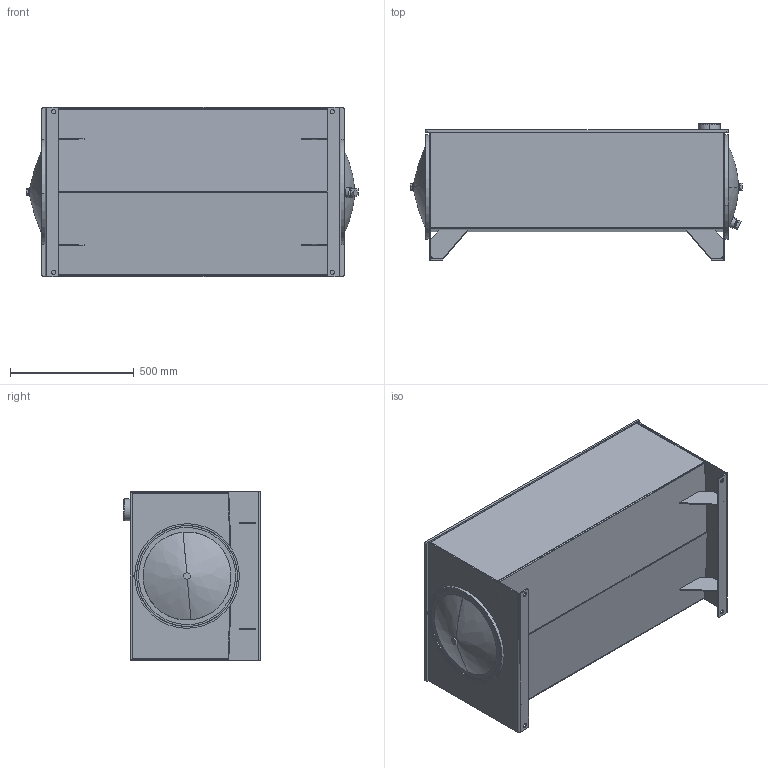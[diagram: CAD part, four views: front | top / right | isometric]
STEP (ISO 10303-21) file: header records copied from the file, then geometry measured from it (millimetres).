
FILE_DESCRIPTION (( 'STEP AP214' ), '1' );
FILE_NAME ('T1-60.STEP', '2026-04-16T10:53:50', ( '' ), ( '' ), 'SwSTEP 2.0', 'SolidWorks 2026', '' );
FILE_SCHEMA (( 'AUTOMOTIVE_DESIGN' ));
Length unit declared in the file: inch
Products named in the file (17): T1-60-GST; T1-60-BDY; 16in END COVER-ASM_CARBON STEEL 16in END COVER ASM; 0.625 - 11 BAFFLE NUT_Carbon Steel Baffle Nut; DRAIN; 16.00 END COVER; CRUSH WASHER; 16in END COVER WITH DRAIN; T1-60; 16.00 GASKET; FILLER RISER; 16in END COVER-ASM WITH DRAIN_CARBON STEEL 16in END COVER-ASM WITH DRAIN; T1-60-EB; T1-60-EA; T1-60-BFL; T1-60-LD; 0.625 - 11 HEX BOLT
Assembly tree (23 placements, depth 3):
  T1-60
    T1-60-LD
    T1-60-EA
    T1-60-EB
    T1-60-BDY
    T1-60-BFL
    T1-60-GST  x4
    FILLER RISER
    16in END COVER-ASM WITH DRAIN_CARBON STEEL 16in END COVER-ASM WITH DRAIN
      CRUSH WASHER
      0.625 - 11 HEX BOLT
      0.625 - 11 BAFFLE NUT_Carbon Steel Baffle Nut
      16in END COVER WITH DRAIN
      DRAIN
      16.00 GASKET
    16in END COVER-ASM_CARBON STEEL 16in END COVER ASM
      16.00 END COVER
      16.00 GASKET
      0.625 - 11 HEX BOLT
      0.625 - 11 BAFFLE NUT_Carbon Steel Baffle Nut
      CRUSH WASHER
Bounding box: 1339.89 x 550.86 x 685.8 mm (x, y, z)
Volume: 19790183.1 mm3; surface area: 8134334.7 mm2
Topology: 22 solids, 22 shells, 294 faces, 676 edges, 434 vertices
Faces by surface type: plane 165, cylinder 109, cone 10, bspline 8, torus 2
Entity records: 7607 total; most frequent: CARTESIAN_POINT 1459, DIRECTION 1242, ORIENTED_EDGE 1076, EDGE_CURVE 538, AXIS2_PLACEMENT_3D 465, VERTEX_POINT 342, VECTOR 312, LINE 312
